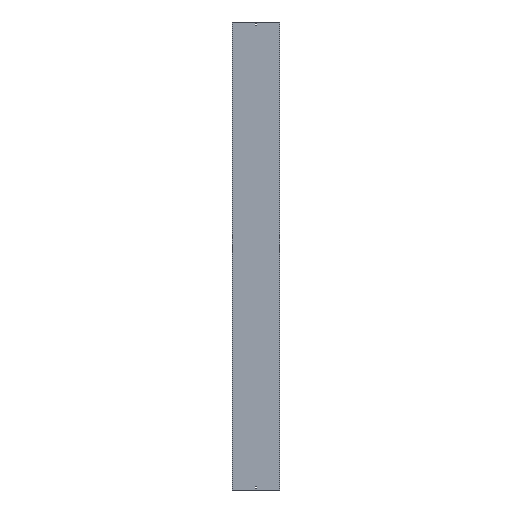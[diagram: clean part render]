
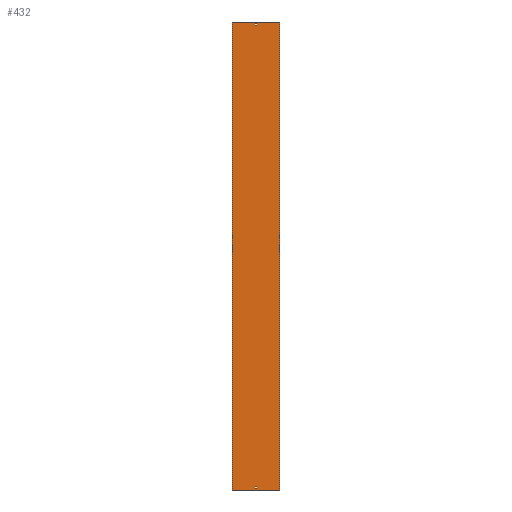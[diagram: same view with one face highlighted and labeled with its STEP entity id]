
A CAD part, front view. The second image highlights one B-rep face of the part: STEP entity #432.
In plain terms, the highlighted planar face has unit normal (0, -1, 0).
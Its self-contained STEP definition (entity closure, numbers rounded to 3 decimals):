
#2 = ORIENTED_EDGE ( 'NONE', *, *, #196, .F. ) ;
#3 = VECTOR ( 'NONE', #325, 1000. ) ;
#5 = ORIENTED_EDGE ( 'NONE', *, *, #305, .F. ) ;
#8 = LINE ( 'NONE', #407, #3 ) ;
#24 = CARTESIAN_POINT ( 'NONE',  ( -3.25, -1.5, -1488. ) ) ;
#25 = ORIENTED_EDGE ( 'NONE', *, *, #501, .T. ) ;
#28 = ORIENTED_EDGE ( 'NONE', *, *, #491, .T. ) ;
#31 = VECTOR ( 'NONE', #328, 1000. ) ;
#39 = VERTEX_POINT ( 'NONE', #384 ) ;
#50 = CARTESIAN_POINT ( 'NONE',  ( -153.5, -1.5, -1500. ) ) ;
#60 = VERTEX_POINT ( 'NONE', #569 ) ;
#67 = EDGE_CURVE ( 'NONE', #229, #300, #294, .T. ) ;
#81 = DIRECTION ( 'NONE',  ( 0., -1., 0. ) ) ;
#82 = AXIS2_PLACEMENT_3D ( 'NONE', #495, #81, #88 ) ;
#84 = EDGE_LOOP ( 'NONE', ( #25, #487, #402, #28 ) ) ;
#88 = DIRECTION ( 'NONE',  ( 0., 0., -1. ) ) ;
#89 = CARTESIAN_POINT ( 'NONE',  ( -153.5, -1.5, 1500. ) ) ;
#91 = ORIENTED_EDGE ( 'NONE', *, *, #322, .F. ) ;
#92 = LINE ( 'NONE', #280, #548 ) ;
#101 = VECTOR ( 'NONE', #586, 1000. ) ;
#104 = DIRECTION ( 'NONE',  ( 0., 0., -1. ) ) ;
#134 = CARTESIAN_POINT ( 'NONE',  ( 3.25, -1.5, 1500. ) ) ;
#135 = VERTEX_POINT ( 'NONE', #333 ) ;
#137 = CARTESIAN_POINT ( 'NONE',  ( -153.5, -1.5, -1488. ) ) ;
#144 = CARTESIAN_POINT ( 'NONE',  ( -153.5, -1.5, 1479. ) ) ;
#172 = DIRECTION ( 'NONE',  ( 0., 0., -1. ) ) ;
#180 = LINE ( 'NONE', #137, #403 ) ;
#182 = LINE ( 'NONE', #144, #397 ) ;
#190 = VERTEX_POINT ( 'NONE', #590 ) ;
#196 = EDGE_CURVE ( 'NONE', #39, #135, #361, .T. ) ;
#201 = EDGE_CURVE ( 'NONE', #190, #60, #543, .T. ) ;
#208 = CARTESIAN_POINT ( 'NONE',  ( 152., -1.5, -1500. ) ) ;
#221 = EDGE_CURVE ( 'NONE', #391, #229, #454, .T. ) ;
#225 = CARTESIAN_POINT ( 'NONE',  ( -152., -1.5, 1500. ) ) ;
#229 = VERTEX_POINT ( 'NONE', #262 ) ;
#235 = EDGE_CURVE ( 'NONE', #378, #240, #255, .T. ) ;
#240 = VERTEX_POINT ( 'NONE', #225 ) ;
#246 = VERTEX_POINT ( 'NONE', #580 ) ;
#255 = LINE ( 'NONE', #89, #469 ) ;
#262 = CARTESIAN_POINT ( 'NONE',  ( -3.25, -1.5, -1479. ) ) ;
#269 = DIRECTION ( 'NONE',  ( -1., 0., 0. ) ) ;
#274 = LINE ( 'NONE', #470, #31 ) ;
#276 = DIRECTION ( 'NONE',  ( 0., 0., -1. ) ) ;
#280 = CARTESIAN_POINT ( 'NONE',  ( -152., -1.5, 1500. ) ) ;
#293 = ORIENTED_EDGE ( 'NONE', *, *, #519, .F. ) ;
#294 = LINE ( 'NONE', #516, #513 ) ;
#299 = DIRECTION ( 'NONE',  ( 1., 0., 0. ) ) ;
#300 = VERTEX_POINT ( 'NONE', #419 ) ;
#304 = VECTOR ( 'NONE', #311, 1000. ) ;
#305 = EDGE_CURVE ( 'NONE', #135, #190, #182, .T. ) ;
#311 = DIRECTION ( 'NONE',  ( 0., 0., 1. ) ) ;
#319 = VECTOR ( 'NONE', #408, 1000. ) ;
#322 = EDGE_CURVE ( 'NONE', #385, #246, #463, .T. ) ;
#325 = DIRECTION ( 'NONE',  ( 0., 0., -1. ) ) ;
#326 = DIRECTION ( 'NONE',  ( 1., 0., 0. ) ) ;
#328 = DIRECTION ( 'NONE',  ( -1., 0., 0. ) ) ;
#330 = VERTEX_POINT ( 'NONE', #335 ) ;
#333 = CARTESIAN_POINT ( 'NONE',  ( -3.25, -1.5, 1479. ) ) ;
#335 = CARTESIAN_POINT ( 'NONE',  ( 3.25, -1.5, -1488. ) ) ;
#350 = FACE_OUTER_BOUND ( 'NONE', #522, .T. ) ;
#354 = CARTESIAN_POINT ( 'NONE',  ( -3.25, -1.5, 1500. ) ) ;
#356 = FACE_BOUND ( 'NONE', #84, .T. ) ;
#361 = LINE ( 'NONE', #540, #577 ) ;
#362 = ORIENTED_EDGE ( 'NONE', *, *, #235, .T. ) ;
#363 = LINE ( 'NONE', #472, #436 ) ;
#378 = VERTEX_POINT ( 'NONE', #425 ) ;
#384 = CARTESIAN_POINT ( 'NONE',  ( -3.25, -1.5, 1488. ) ) ;
#385 = VERTEX_POINT ( 'NONE', #208 ) ;
#391 = VERTEX_POINT ( 'NONE', #24 ) ;
#397 = VECTOR ( 'NONE', #326, 1000. ) ;
#402 = ORIENTED_EDGE ( 'NONE', *, *, #67, .T. ) ;
#403 = VECTOR ( 'NONE', #502, 1000. ) ;
#404 = PLANE ( 'NONE',  #82 ) ;
#407 = CARTESIAN_POINT ( 'NONE',  ( 3.25, -1.5, 1500. ) ) ;
#408 = DIRECTION ( 'NONE',  ( -1., 0., 0. ) ) ;
#419 = CARTESIAN_POINT ( 'NONE',  ( 3.25, -1.5, -1479. ) ) ;
#425 = CARTESIAN_POINT ( 'NONE',  ( 152., -1.5, 1500. ) ) ;
#432 = ADVANCED_FACE ( 'NONE', ( #449, #350, #356 ), #404, .T. ) ;
#436 = VECTOR ( 'NONE', #276, 1000. ) ;
#449 = FACE_BOUND ( 'NONE', #526, .T. ) ;
#454 = LINE ( 'NONE', #354, #101 ) ;
#463 = LINE ( 'NONE', #50, #319 ) ;
#469 = VECTOR ( 'NONE', #269, 1000. ) ;
#470 = CARTESIAN_POINT ( 'NONE',  ( -153.5, -1.5, 1488. ) ) ;
#472 = CARTESIAN_POINT ( 'NONE',  ( 152., -1.5, 1500. ) ) ;
#479 = EDGE_CURVE ( 'NONE', #378, #385, #363, .T. ) ;
#487 = ORIENTED_EDGE ( 'NONE', *, *, #221, .T. ) ;
#491 = EDGE_CURVE ( 'NONE', #300, #330, #8, .T. ) ;
#494 = ORIENTED_EDGE ( 'NONE', *, *, #201, .F. ) ;
#495 = CARTESIAN_POINT ( 'NONE',  ( -153.5, -1.5, 1500. ) ) ;
#501 = EDGE_CURVE ( 'NONE', #330, #391, #180, .T. ) ;
#502 = DIRECTION ( 'NONE',  ( -1., 0., 0. ) ) ;
#506 = ORIENTED_EDGE ( 'NONE', *, *, #514, .T. ) ;
#513 = VECTOR ( 'NONE', #299, 1000. ) ;
#514 = EDGE_CURVE ( 'NONE', #240, #246, #92, .T. ) ;
#516 = CARTESIAN_POINT ( 'NONE',  ( -153.5, -1.5, -1479. ) ) ;
#519 = EDGE_CURVE ( 'NONE', #60, #39, #274, .T. ) ;
#522 = EDGE_LOOP ( 'NONE', ( #91, #591, #362, #506 ) ) ;
#526 = EDGE_LOOP ( 'NONE', ( #2, #293, #494, #5 ) ) ;
#540 = CARTESIAN_POINT ( 'NONE',  ( -3.25, -1.5, 1500. ) ) ;
#543 = LINE ( 'NONE', #134, #304 ) ;
#548 = VECTOR ( 'NONE', #104, 1000. ) ;
#569 = CARTESIAN_POINT ( 'NONE',  ( 3.25, -1.5, 1488. ) ) ;
#577 = VECTOR ( 'NONE', #172, 1000. ) ;
#580 = CARTESIAN_POINT ( 'NONE',  ( -152., -1.5, -1500. ) ) ;
#586 = DIRECTION ( 'NONE',  ( 0., 0., 1. ) ) ;
#590 = CARTESIAN_POINT ( 'NONE',  ( 3.25, -1.5, 1479. ) ) ;
#591 = ORIENTED_EDGE ( 'NONE', *, *, #479, .F. ) ;
